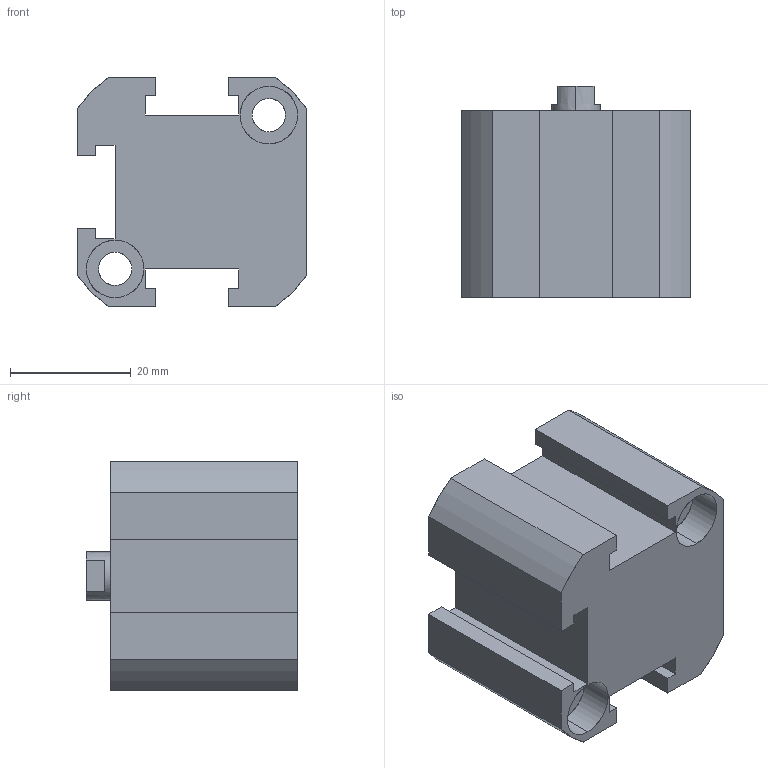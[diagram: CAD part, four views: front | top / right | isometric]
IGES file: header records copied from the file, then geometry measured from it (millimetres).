
Start section: SolidWorks IGES file using analytic representation for surfaces
Global section: file name: C:\Users\Toshiba\Desktop\XC#1-20-10.IGS; native system: SolidWorks 2014; preprocessor: SolidWorks 2014; author: Toshiba; date: 160523.153814; units: millimetre
Bounding box: 38 x 35 x 38 mm (x, y, z)
Surface area: 10268.9 mm2 (no closed solid volume)
Topology: 0 solids, 0 shells, 85 faces, 1211 edges, 1207 vertices
Faces by surface type: bspline 44, revolution 41
